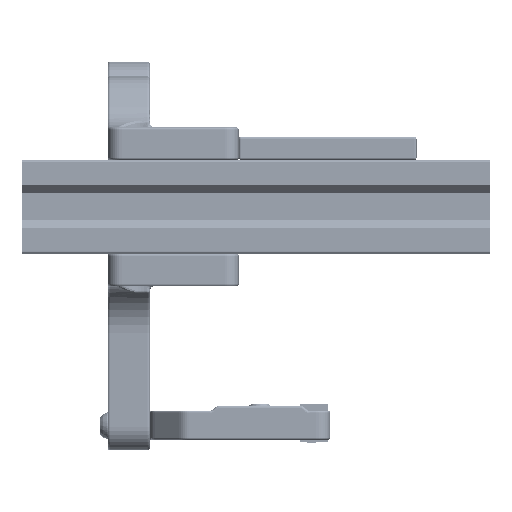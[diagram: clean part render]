
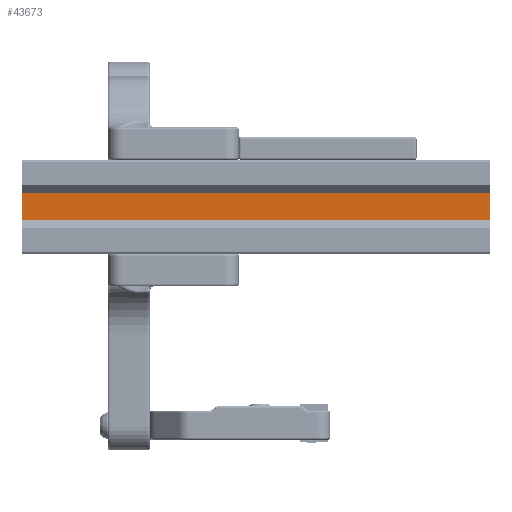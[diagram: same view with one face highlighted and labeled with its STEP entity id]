
A CAD part, front view. The second image highlights one B-rep face of the part: STEP entity #43673.
In plain terms, the highlighted planar face has unit normal (0, -1, 0).
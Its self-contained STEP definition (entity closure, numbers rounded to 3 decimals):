
#3517=PLANE('',#46799);
#4181=FACE_OUTER_BOUND('',#6934,.T.);
#6934=EDGE_LOOP('',(#28959,#28960,#28961,#28962));
#9792=LINE('',#62949,#12603);
#9912=LINE('',#63200,#12723);
#9913=LINE('',#63203,#12724);
#9914=LINE('',#63204,#12725);
#12603=VECTOR('',#51227,10.);
#12723=VECTOR('',#51465,10.);
#12724=VECTOR('',#51468,10.);
#12725=VECTOR('',#51469,10.);
#17489=VERTEX_POINT('',#62946);
#17490=VERTEX_POINT('',#62948);
#17562=VERTEX_POINT('',#63198);
#17563=VERTEX_POINT('',#63202);
#21794=EDGE_CURVE('',#17489,#17490,#9792,.T.);
#21920=EDGE_CURVE('',#17489,#17562,#9912,.T.);
#21921=EDGE_CURVE('',#17563,#17562,#9913,.F.);
#21922=EDGE_CURVE('',#17490,#17563,#9914,.T.);
#28959=ORIENTED_EDGE('',*,*,#21794,.F.);
#28960=ORIENTED_EDGE('',*,*,#21920,.T.);
#28961=ORIENTED_EDGE('',*,*,#21921,.F.);
#28962=ORIENTED_EDGE('',*,*,#21922,.F.);
#43673=ADVANCED_FACE('',(#4181),#3517,.T.);
#46799=AXIS2_PLACEMENT_3D('',#63201,#51466,#51467);
#51227=DIRECTION('',(0.,0.,1.));
#51465=DIRECTION('',(1.,0.,0.));
#51466=DIRECTION('center_axis',(0.,-1.,0.));
#51467=DIRECTION('ref_axis',(0.,0.,
-1.));
#51468=DIRECTION('',(0.,0.,1.));
#51469=DIRECTION('',(1.,0.,0.));
#62946=CARTESIAN_POINT('',(-47.5,24.913,-7.845));
#62948=CARTESIAN_POINT('',(-47.5,24.913,-2.155));
#62949=CARTESIAN_POINT('',(-47.5,24.913,-3.577));
#63198=CARTESIAN_POINT('',(52.5,24.913,-7.845));
#63200=CARTESIAN_POINT('',(-97.5,24.913,-7.845));
#63201=CARTESIAN_POINT('Origin',(-97.5,24.913,-2.155));
#63202=CARTESIAN_POINT('',(52.5,24.913,-2.155));
#63203=CARTESIAN_POINT('',(52.5,24.913,-3.578));
#63204=CARTESIAN_POINT('',(-97.5,24.913,-2.155));
